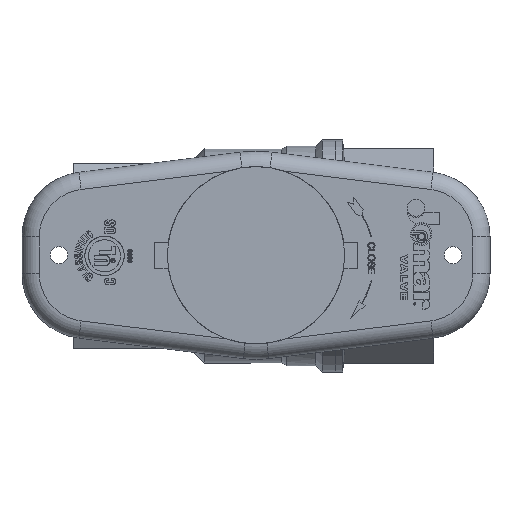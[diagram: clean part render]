
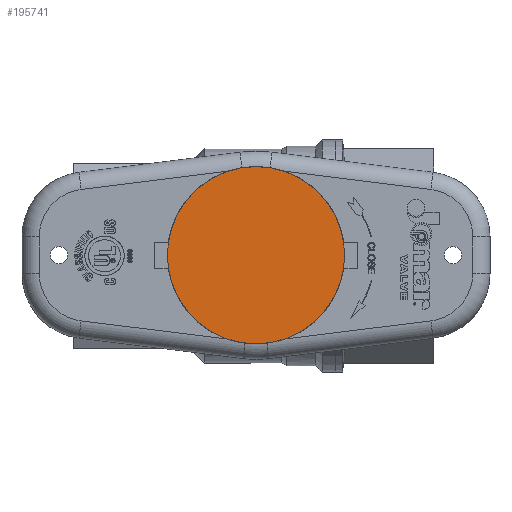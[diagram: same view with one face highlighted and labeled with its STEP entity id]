
A CAD part, top view. The second image highlights one B-rep face of the part: STEP entity #195741.
In plain terms, the highlighted planar face has unit normal (0, 0, 1).
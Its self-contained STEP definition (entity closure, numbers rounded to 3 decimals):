
#195533 = CYLINDRICAL_SURFACE('',#195534,0.924);
#195534 = AXIS2_PLACEMENT_3D('',#195535,#195536,#195537);
#195535 = CARTESIAN_POINT('',(1.906,0.,
    4.628));
#195536 = DIRECTION('',(0.,0.,-1.));
#195537 = DIRECTION('',(0.,1.,0.));
#195608 = VERTEX_POINT('',#195609);
#195609 = CARTESIAN_POINT('',(1.906,0.924,
    4.628));
#195629 = EDGE_CURVE('',#195608,#195608,#195630,.T.);
#195630 = SURFACE_CURVE('',#195631,(#195636,#195643),.PCURVE_S1.);
#195631 = CIRCLE('',#195632,0.924);
#195632 = AXIS2_PLACEMENT_3D('',#195633,#195634,#195635);
#195633 = CARTESIAN_POINT('',(1.906,0.,
    4.628));
#195634 = DIRECTION('',(0.,0.,1.));
#195635 = DIRECTION('',(0.,1.,0.));
#195636 = PCURVE('',#195533,#195637);
#195637 = DEFINITIONAL_REPRESENTATION('',(#195638),#195642);
#195638 = LINE('',#195639,#195640);
#195639 = CARTESIAN_POINT('',(6.283,0.));
#195640 = VECTOR('',#195641,1.);
#195641 = DIRECTION('',(-1.,0.));
#195642 = ( GEOMETRIC_REPRESENTATION_CONTEXT(2) 
PARAMETRIC_REPRESENTATION_CONTEXT() REPRESENTATION_CONTEXT('2D SPACE',''
  ) );
#195643 = PCURVE('',#195644,#195649);
#195644 = PLANE('',#195645);
#195645 = AXIS2_PLACEMENT_3D('',#195646,#195647,#195648);
#195646 = CARTESIAN_POINT('',(1.906,0.,
    4.628));
#195647 = DIRECTION('',(0.,0.,1.));
#195648 = DIRECTION('',(0.,1.,0.));
#195649 = DEFINITIONAL_REPRESENTATION('',(#195650),#195654);
#195650 = CIRCLE('',#195651,0.924);
#195651 = AXIS2_PLACEMENT_2D('',#195652,#195653);
#195652 = CARTESIAN_POINT('',(0.,0.));
#195653 = DIRECTION('',(1.,0.));
#195654 = ( GEOMETRIC_REPRESENTATION_CONTEXT(2) 
PARAMETRIC_REPRESENTATION_CONTEXT() REPRESENTATION_CONTEXT('2D SPACE',''
  ) );
#195741 = ADVANCED_FACE('',(#195742),#195644,.T.);
#195742 = FACE_BOUND('',#195743,.T.);
#195743 = EDGE_LOOP('',(#195744));
#195744 = ORIENTED_EDGE('',*,*,#195629,.T.);
